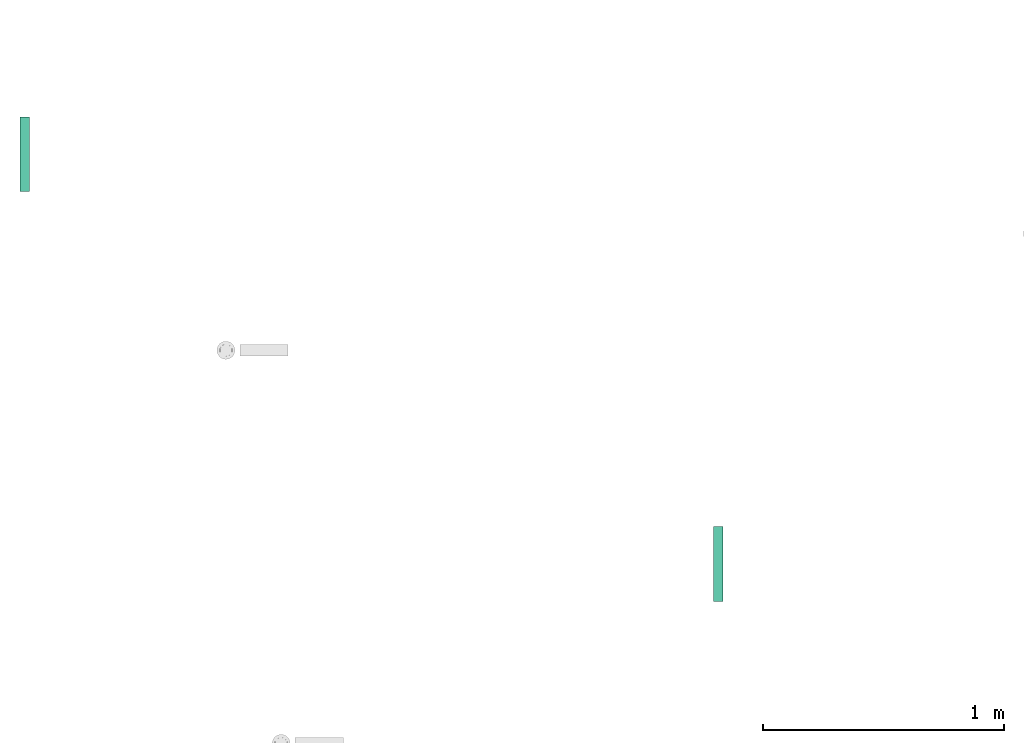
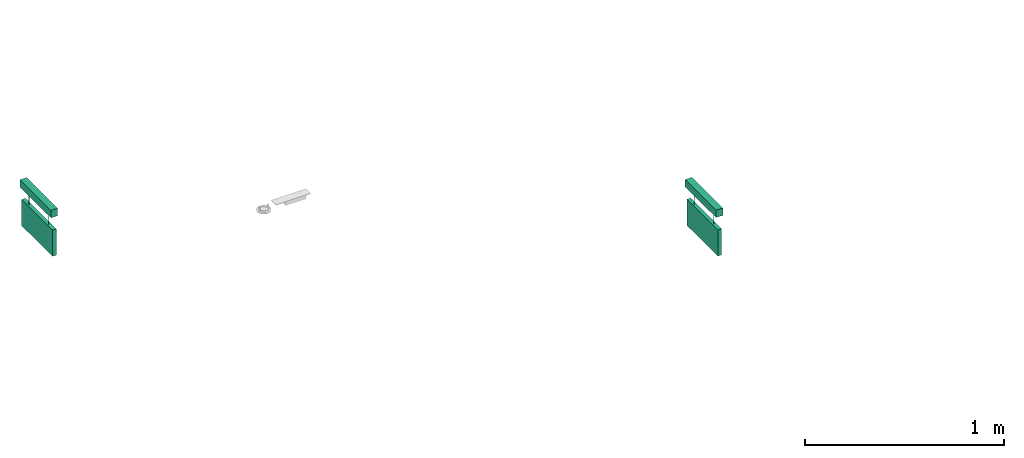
# One storey, part 3 of 4: 2 flow terminals.
"""IFC2X3 building model written with IfcOpenShell, lengths in millimetres."""

from ifc_helpers import new_model, entity, si_unit, converted_unit, derived_unit, direction, frame, frame_2d, origin, origin_2d_with_axis, place, context, subcontext, project, spatial, polyline, circle_curve, parameter, trimmed, segment, composite_curve, rectangle, circle, outline, extrude, source, transform, mapped, material, material_list, type_object, element, save


model = new_model("IFC2X3")

# Units and contexts
model_context = context("Model", 3, precision=0.01, world=frame((0.0, 4.29681676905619e-09, 0.0)), true_north=direction((4.01073788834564e-13, 1.0)))
plan_context = context("Plan", 3, precision=0.01, world=frame((0.0, 4.29681676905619e-09, 0.0)), true_north=direction((4.01073788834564e-13, 1.0)))
body_context = subcontext(model_context, "Body", "Model", "MODEL_VIEW")
ifc_project = project(units=[converted_unit("PLANEANGLEUNIT", "DEGREE", entity("IfcPositiveLengthMeasure", 0.0174532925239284), si_unit("PLANEANGLEUNIT", "RADIAN"), dimensions=[0, 0, 0, 0, 0, 0, 0]), si_unit("AREAUNIT", "SQUARE_METRE"), si_unit("LENGTHUNIT", "METRE", prefix="MILLI"), si_unit("MASSUNIT", "GRAM", prefix="KILO"), si_unit("POWERUNIT", "WATT"), si_unit("PRESSUREUNIT", "PASCAL"), si_unit("FORCEUNIT", "NEWTON", prefix="KILO"), si_unit("ELECTRICVOLTAGEUNIT", "VOLT"), si_unit("ELECTRICCURRENTUNIT", "AMPERE"), si_unit("THERMODYNAMICTEMPERATUREUNIT", "DEGREE_CELSIUS"), si_unit("TIMEUNIT", "SECOND"), si_unit("VOLUMEUNIT", "CUBIC_METRE"), derived_unit("LINEARVELOCITYUNIT", [(si_unit("LENGTHUNIT", "METRE"), 1), (si_unit("TIMEUNIT", "SECOND"), -1)]), derived_unit("VOLUMETRICFLOWRATEUNIT", [(si_unit("VOLUMEUNIT", "CUBIC_METRE"), 1), (si_unit("TIMEUNIT", "SECOND"), -1)]), derived_unit("THERMALTRANSMITTANCEUNIT", [(si_unit("POWERUNIT", "WATT"), 1), (si_unit("THERMODYNAMICTEMPERATUREUNIT", "KELVIN"), -1), (si_unit("AREAUNIT", "SQUARE_METRE"), -1)]), derived_unit("SOUNDPRESSUREUNIT", [(si_unit("PRESSUREUNIT", "PASCAL"), 1)])], contexts=[model_context, plan_context])

# Site, building, storey
site_placement = place(None, frame((0.0, -4.29681676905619e-09, 0.0), z_axis=(0.0, 0.0, 1.0), x_axis=(1.0, 0.0, 0.0)))
site = spatial("IfcSite", under=ifc_project, at=site_placement, Name="Default", CompositionType="ELEMENT")
building_placement = place(site_placement, frame((0.0, 4.29681676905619e-09, 0.0), z_axis=(0.0, 0.0, 1.0), x_axis=(1.0, 0.0, 0.0)))
building = spatial("IfcBuilding", under=site, at=building_placement, CompositionType="ELEMENT")
storey_placement = place(building_placement, frame((0.0, 0.0, 210900.0), z_axis=(0.0, 0.0, 1.0), x_axis=(1.0, 0.0, 0.0)))
storey = spatial("IfcBuildingStorey", under=building, at=storey_placement, Name="Nivå F", CompositionType="ELEMENT", Elevation=210900.0)

# Flow terminals
ifc_material_1 = material(Name="Light Source Hvit")
ifc_material_2 = material(Name="Light Source Grønn")
ifc_material_3 = material(Name="<Unnamed>")
ifc_material_list = material_list([ifc_material_1, ifc_material_2, ifc_material_3])
light_fixture_type_1 = type_object("IfcLightFixtureType", Name="Markeringslys ensidig 30 meter leseavstand wire:IB7218 Zumtobel PURESIGN/COMSIGN 150 P MSC-WF15 ECD SRE innfelt", PredefinedType="NOTDEFINED", material=ifc_material_list)
shared_shape = source(origin(), body_context, "Body", "SweptSolid", [
    extrude(outline(polyline([(-9.94071838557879, -40.8929275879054), (20.6582999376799, -40.8929275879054), (61.5512275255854, 0.0), (20.6582999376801, 40.8929275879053), (-9.94071838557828, 40.8929275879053), (17.4135315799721, 13.5386776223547), (-58.9067268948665, 13.5386776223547), (-58.9067268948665, -13.5386776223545), (17.4135315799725, -13.5386776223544), (-9.94071838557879, -40.8929275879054)])), frame((-68.0, 32.0, -204.02931218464), z_axis=(0.0, 1.0, 0.0), x_axis=(0.0, 0.0, -1.0)), (0.0, 0.0, 1.0), 2.0),
    extrude(outline(composite_curve([segment(trimmed(circle_curve(origin_2d_with_axis(), 70.0), [parameter(180.0)], [parameter(360.0)], True, "PARAMETER"), True, "CONTINUOUS"), segment(trimmed(circle_curve(origin_2d_with_axis(), 70.0), [parameter(0.0)], [parameter(180.0)], True, "PARAMETER"), True, "CONTINUOUS")], self_intersect=False), holes=[polyline([(60.2289772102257, 0.0), (19.3360496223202, -40.8929275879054), (-11.2629687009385, -40.8929275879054), (16.0912812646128, -13.5386776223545), (-60.2289772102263, -13.5386776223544), (-60.2289772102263, 13.5386776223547), (16.0912812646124, 13.5386776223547), (-11.262968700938, 40.8929275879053), (19.3360496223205, 40.8929275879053), (60.2289772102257, 0.0)])]), frame((-68.0, 32.0, -205.3515625), z_axis=(0.0, 1.0, 0.0), x_axis=(0.0, 0.0, -1.0)), (0.0, 0.0, 1.0), 2.0),
    extrude(outline(polyline([(-80.0, -155.0), (80.0, -155.0), (80.0, 155.0), (-80.0, 155.0), (-80.0, -155.0)]), holes=[polyline([(-46.0, 68.0), (-46.0, 110.0), (-34.0, 110.0), (-34.0, 80.0), (-2.58359213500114, 80.0), (26.0, 65.7082039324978), (26.0, 78.6028577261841), (8.91302546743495, 88.8550424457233), (15.0869745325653, 99.1449575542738), (38.0, 85.3971422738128), (38.0, 46.0), (36.9923017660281, 42.6717988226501), (27.2111025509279, 28.0), (14.0, 28.0), (14.0, 10.0), (2.0, 10.0), (2.0, 40.0), (22.2792226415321, 40.0), (-6.84828493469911, 58.204692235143), (-54.5419187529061, 29.5474658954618), (-60.8224348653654, 40.0), (-14.2226093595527, 68.0), (-46.0, 68.0)]), composite_curve([segment(trimmed(circle_curve(frame_2d((52.0, 42.0), x_axis=(0.0, -1.0)), 14.0), [parameter(3.05333249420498e-13)], [parameter(180.0)], True, "PARAMETER"), False, "CONTINUOUS"), segment(trimmed(circle_curve(frame_2d((52.0, 42.0), x_axis=(0.0, -1.0)), 14.0), [parameter(180.0)], [parameter(5.08888749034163e-14)], True, "PARAMETER"), False, "CONTINUOUS")], self_intersect=False), composite_curve([segment(trimmed(circle_curve(frame_2d((0.0, -68.0), x_axis=(0.0, -1.0)), 70.0), [parameter(3.05333249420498e-13)], [parameter(180.0)], True, "PARAMETER"), False, "CONTINUOUS"), segment(trimmed(circle_curve(frame_2d((0.0, -68.0), x_axis=(0.0, -1.0)), 70.0), [parameter(180.0)], [parameter(0.0)], True, "PARAMETER"), False, "CONTINUOUS")], self_intersect=False)]), frame((0.0, 32.0, -205.351562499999), z_axis=(0.0, 1.0, 0.0), x_axis=(0.0, 0.0, 1.0)), (0.0, 0.0, 1.0), 2.0),
    extrude(circle(Radius=14.0, at=origin_2d_with_axis()), frame((42.0, 32.0, -153.351562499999), z_axis=(0.0, 1.0, 0.0), x_axis=(-1.0, 0.0, 0.0)), (0.0, 0.0, 1.0), 2.0),
    extrude(outline(polyline([(32.7028994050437, -50.6303563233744), (44.7028994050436, -50.6303563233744), (44.7028994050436, -8.63035632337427), (12.9255087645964, -8.63035632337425), (59.5253342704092, 19.3696436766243), (53.2448181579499, 29.8221777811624), (5.55118433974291, 1.16495144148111), (-23.5763232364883, 19.3696436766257), (-3.29710059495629, 19.3696436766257), (-3.29710059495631, 49.3696436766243), (-15.2971005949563, 49.3696436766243), (-15.2971005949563, 31.3696436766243), (-28.5082031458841, 31.3696436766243), (-38.2894023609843, 16.6978448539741), (-39.2971005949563, 13.3696436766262), (-39.2971005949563, -26.0274985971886), (-16.3840751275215, -39.7753138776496), (-10.2101260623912, -29.4853987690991), (-27.2971005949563, -19.2332140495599), (-27.2971005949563, -6.33856025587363), (1.2864915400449, -20.6303563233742), (32.7028994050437, -20.6303563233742), (32.7028994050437, -50.6303563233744)])), frame((59.369643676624, 32.0, -206.648663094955), z_axis=(0.0, 1.0, 0.0), x_axis=(0.0, 0.0, -1.0)), (0.0, 0.0, 1.0), 2.0),
    extrude(circle(Radius=1.59910024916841, at=origin_2d_with_axis()), frame((-99.0444679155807, 22.0, -124.696846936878)), (0.0, 0.0, 1.0), 79.3452844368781),
    extrude(circle(Radius=1.59910024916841, at=origin_2d_with_axis()), frame((99.044467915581, 22.0, -124.696846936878), z_axis=(0.0, 0.0, 1.0), x_axis=(-1.0, 0.0, 0.0)), (0.0, 0.0, 1.0), 79.3452844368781),
    extrude(rectangle(XDim=310.0, YDim=38.8655790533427, at=origin_2d_with_axis()), frame((0.0, 22.0, -45.6796874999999), z_axis=(0.0, 0.0, 1.0), x_axis=(-1.0, 0.0, 0.0)), (0.0, 0.0, 1.0), 45.6596380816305),
    extrude(rectangle(XDim=310.0, YDim=20.0, at=frame_2d((-1.4210854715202e-14, -1.77635683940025e-15), x_axis=(1.0, 0.0))), frame((0.0, 22.0, -284.696846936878), z_axis=(0.0, 0.0, 1.0), x_axis=(-1.0, 0.0, 0.0)), (0.0, 0.0, 1.0), 160.0),
])
flow_terminal_1_placement = place(storey_placement, frame((520672.250000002, 456416.201833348, 2295.0), z_axis=(0.0, 0.0, 1.0), x_axis=(0.0, -1.0, 0.0)))
element("IfcFlowTerminal", 1, at=flow_terminal_1_placement, inside=storey, type_object=light_fixture_type_1, material=ifc_material_list, Name="Markeringslys ensidig 30 meter leseavstand wire:IB7218 Zumtobel PURESIGN/COMSIGN 150 P MSC-WF15 ECD SRE innfelt", ObjectType="Markeringslys ensidig 30 meter leseavstand wire:IB7218 Zumtobel PURESIGN/COMSIGN 150 P MSC-WF15 ECD SRE innfelt", context=body_context, shape_type="MappedRepresentation", body=[
    mapped(shared_shape, transform((0.0, 0.0, 0.0), scale=1.0)),
])
light_fixture_type_2 = type_object("IfcLightFixtureType", Name="IB7334 Markeringslys ensidig 30 meter leseavstand wire:IB7334 Zumtobel Puresign/Consign 150 ASI NDA", PredefinedType="NOTDEFINED", material=ifc_material_list)
flow_terminal_2_placement = place(storey_placement, frame((523545.500000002, 454718.840519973, 2320.0), z_axis=(0.0, 0.0, 1.0), x_axis=(0.0, -1.0, 0.0)))
element("IfcFlowTerminal", 2, at=flow_terminal_2_placement, inside=storey, type_object=light_fixture_type_2, material=ifc_material_list, Name="IB7334 Markeringslys ensidig 30 meter leseavstand wire:IB7334 Zumtobel Puresign/Consign 150 ASI NDA", ObjectType="IB7334 Markeringslys ensidig 30 meter leseavstand wire:IB7334 Zumtobel Puresign/Consign 150 ASI NDA", context=body_context, shape_type="MappedRepresentation", body=[
    mapped(shared_shape, transform((0.0, 0.0, 0.0), scale=1.0)),
])

save(model, "model.ifc")
